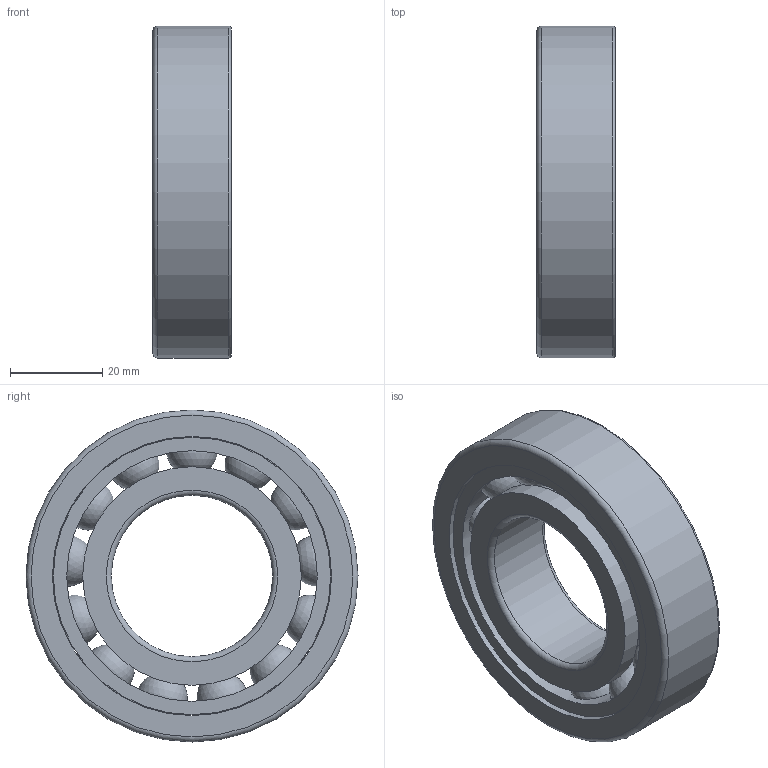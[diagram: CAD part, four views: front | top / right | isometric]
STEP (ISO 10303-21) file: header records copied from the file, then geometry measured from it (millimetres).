
FILE_DESCRIPTION(/* description */ (''),/* implementation_level */ '2;1');
FILE_NAME(/* name */ 'S_6207_TA.step',/* time_stamp */ '2013-03-06T14:49:26+01:00',/* author */ ('Marian'),/* organization */ ('GMN'),/* preprocessor_version */ 'ST-DEVELOPER v11',/* originating_system */ 'SIEMENS UGS NX 6.0',/* authorisation */ '');
FILE_SCHEMA (('CONFIG_CONTROL_DESIGN'));
Length unit declared in the file: millimetre
Products named in the file (1): S_6207_TA
Bounding box: 17 x 72 x 72 mm (x, y, z)
Volume: 39961.9 mm3; surface area: 25467.4 mm2
Topology: 16 solids, 16 shells, 46 faces, 112 edges, 72 vertices
Faces by surface type: cylinder 20, sphere 13, torus 6, plane 6, cone 1
Full cylindrical faces by diameter (mm): 11.312 x13, 35 x1, 47.4 x2, 54.352 x1, 60.15 x1, 60.55 x1, 72 x1
Entity records: 1460 total; most frequent: CARTESIAN_POINT 594, DIRECTION 134, FACE_BOUND 105, EDGE_LOOP 92, ORIENTED_EDGE 92, AXIS2_PLACEMENT_3D 67, VERTEX_POINT 59, EDGE_CURVE 46
